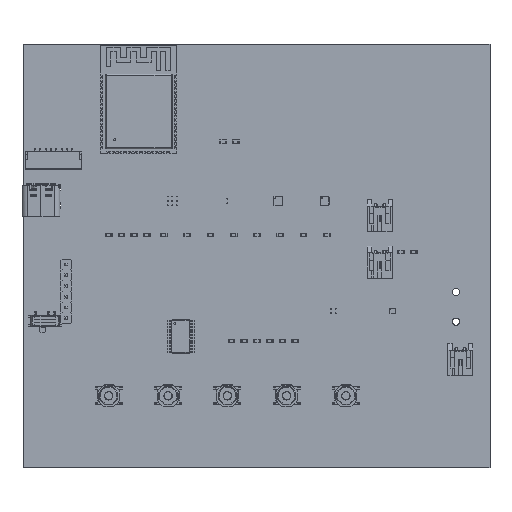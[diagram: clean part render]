
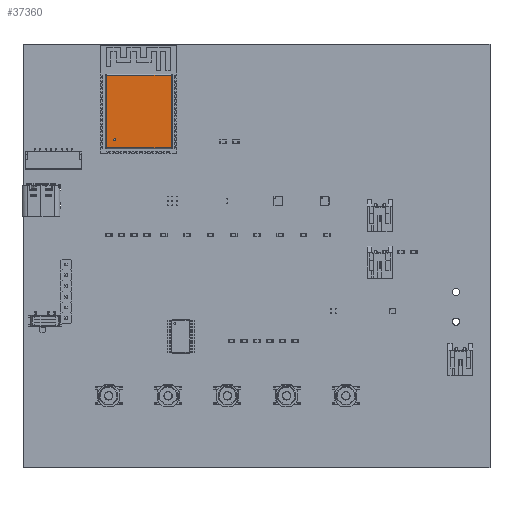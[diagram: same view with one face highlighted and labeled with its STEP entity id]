
A CAD part, top view. The second image highlights one B-rep face of the part: STEP entity #37360.
In plain terms, the highlighted planar face has unit normal (0, 0, 1).
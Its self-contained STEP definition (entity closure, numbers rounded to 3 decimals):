
#37184 = VERTEX_POINT('',#37185);
#37185 = CARTESIAN_POINT('',(-7.55,5.65,3.1));
#37192 = EDGE_CURVE('',#37184,#37193,#37195,.T.);
#37193 = VERTEX_POINT('',#37194);
#37194 = CARTESIAN_POINT('',(7.75,5.65,3.1));
#37195 = LINE('',#37196,#37197);
#37196 = CARTESIAN_POINT('',(-7.8,5.65,3.1));
#37197 = VECTOR('',#37198,1.);
#37198 = DIRECTION('',(1.,0.,0.));
#37360 = ADVANCED_FACE('',(#37361,#37386),#37397,.T.);
#37361 = FACE_BOUND('',#37362,.T.);
#37362 = EDGE_LOOP('',(#37363,#37373,#37379,#37380));
#37363 = ORIENTED_EDGE('',*,*,#37364,.F.);
#37364 = EDGE_CURVE('',#37365,#37367,#37369,.T.);
#37365 = VERTEX_POINT('',#37366);
#37366 = CARTESIAN_POINT('',(7.75,-11.45,3.1));
#37367 = VERTEX_POINT('',#37368);
#37368 = CARTESIAN_POINT('',(-7.55,-11.45,3.1));
#37369 = LINE('',#37370,#37371);
#37370 = CARTESIAN_POINT('',(8.,-11.45,3.1));
#37371 = VECTOR('',#37372,1.);
#37372 = DIRECTION('',(-1.,0.,0.));
#37373 = ORIENTED_EDGE('',*,*,#37374,.F.);
#37374 = EDGE_CURVE('',#37193,#37365,#37375,.T.);
#37375 = LINE('',#37376,#37377);
#37376 = CARTESIAN_POINT('',(7.75,5.9,3.1));
#37377 = VECTOR('',#37378,1.);
#37378 = DIRECTION('',(0.,-1.,0.));
#37379 = ORIENTED_EDGE('',*,*,#37192,.F.);
#37380 = ORIENTED_EDGE('',*,*,#37381,.F.);
#37381 = EDGE_CURVE('',#37367,#37184,#37382,.T.);
#37382 = LINE('',#37383,#37384);
#37383 = CARTESIAN_POINT('',(-7.55,-11.7,3.1));
#37384 = VECTOR('',#37385,1.);
#37385 = DIRECTION('',(0.,1.,0.));
#37386 = FACE_BOUND('',#37387,.T.);
#37387 = EDGE_LOOP('',(#37388));
#37388 = ORIENTED_EDGE('',*,*,#37389,.F.);
#37389 = EDGE_CURVE('',#37390,#37390,#37392,.T.);
#37390 = VERTEX_POINT('',#37391);
#37391 = CARTESIAN_POINT('',(-5.35,-9.6,3.1));
#37392 = CIRCLE('',#37393,0.25);
#37393 = AXIS2_PLACEMENT_3D('',#37394,#37395,#37396);
#37394 = CARTESIAN_POINT('',(-5.6,-9.6,3.1));
#37395 = DIRECTION('',(0.,0.,1.));
#37396 = DIRECTION('',(1.,0.,-0.));
#37397 = PLANE('',#37398);
#37398 = AXIS2_PLACEMENT_3D('',#37399,#37400,#37401);
#37399 = CARTESIAN_POINT('',(0.1,-2.9,3.1));
#37400 = DIRECTION('',(0.,0.,1.));
#37401 = DIRECTION('',(1.,0.,-0.));
